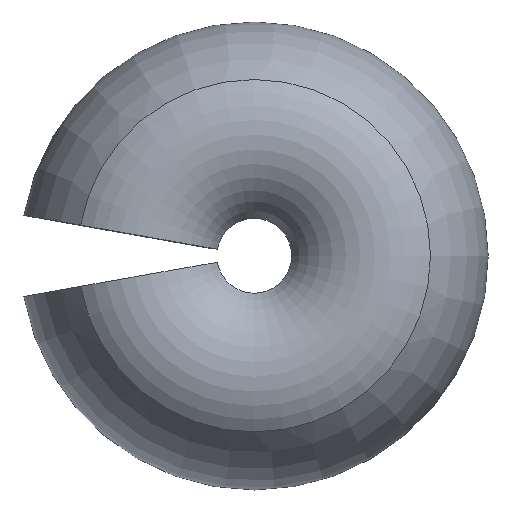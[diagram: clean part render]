
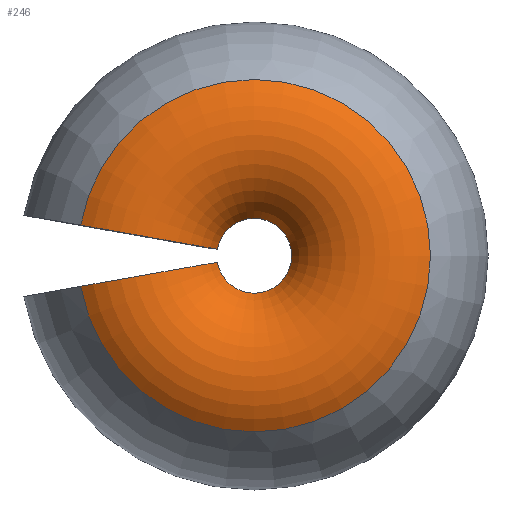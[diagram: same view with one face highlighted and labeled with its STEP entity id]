
A CAD part, top view. The second image highlights one B-rep face of the part: STEP entity #246.
In plain terms, the highlighted toroidal (fillet/blend) face has major radius 1705.64 mm and minor radius 1295 mm.
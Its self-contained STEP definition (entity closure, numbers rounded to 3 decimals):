
#7 = ORIENTED_EDGE ( 'NONE', *, *, #131, .F. ) ;
#14 = EDGE_CURVE ( 'NONE', #115, #139, #83, .T. ) ;
#19 = CARTESIAN_POINT ( 'NONE',  ( -1679.729, -296.182, 1972.718 ) ) ;
#24 = CARTESIAN_POINT ( 'NONE',  ( 0., 0., 1972.718 ) ) ;
#34 = CIRCLE ( 'NONE', #192, 1295. ) ;
#36 = ORIENTED_EDGE ( 'NONE', *, *, #151, .T. ) ;
#48 = TOROIDAL_SURFACE ( 'NONE', #219, 1705.642, 1295. ) ;
#77 = DIRECTION ( 'NONE',  ( 0.174, 0.985, 0. ) ) ;
#83 = CIRCLE ( 'NONE', #223, 531.973 ) ;
#111 = DIRECTION ( 'NONE',  ( 0., 0., -1. ) ) ;
#115 = VERTEX_POINT ( 'NONE', #140 ) ;
#123 = DIRECTION ( 'NONE',  ( 0., 0., -1. ) ) ;
#131 = EDGE_CURVE ( 'NONE', #158, #239, #161, .T. ) ;
#137 = CIRCLE ( 'NONE', #149, 1295. ) ;
#139 = VERTEX_POINT ( 'NONE', #181 ) ;
#140 = CARTESIAN_POINT ( 'NONE',  ( -523.892, 92.376, 2520.008 ) ) ;
#141 = CARTESIAN_POINT ( 'NONE',  ( 0., 0., 2993.192 ) ) ;
#142 = DIRECTION ( 'NONE',  ( 0., 0., 1. ) ) ;
#144 = CARTESIAN_POINT ( 'NONE',  ( 0., 0., 2520.008 ) ) ;
#149 = AXIS2_PLACEMENT_3D ( 'NONE', #265, #77, #163 ) ;
#151 = EDGE_CURVE ( 'NONE', #158, #115, #137, .T. ) ;
#158 = VERTEX_POINT ( 'NONE', #160 ) ;
#160 = CARTESIAN_POINT ( 'NONE',  ( -2464.899, 434.628, 2993.192 ) ) ;
#161 = CIRCLE ( 'NONE', #187, 2502.924 ) ;
#163 = DIRECTION ( 'NONE',  ( 0., 0., 1. ) ) ;
#164 = EDGE_CURVE ( 'NONE', #239, #139, #34, .T. ) ;
#173 = EDGE_LOOP ( 'NONE', ( #241, #198, #7, #36 ) ) ;
#181 = CARTESIAN_POINT ( 'NONE',  ( -523.892, -92.376, 2520.008 ) ) ;
#187 = AXIS2_PLACEMENT_3D ( 'NONE', #141, #123, #205 ) ;
#192 = AXIS2_PLACEMENT_3D ( 'NONE', #19, #244, #142 ) ;
#198 = ORIENTED_EDGE ( 'NONE', *, *, #164, .F. ) ;
#205 = DIRECTION ( 'NONE',  ( -1., 0., 0. ) ) ;
#210 = DIRECTION ( 'NONE',  ( -1., 0., 0. ) ) ;
#219 = AXIS2_PLACEMENT_3D ( 'NONE', #24, #111, #210 ) ;
#223 = AXIS2_PLACEMENT_3D ( 'NONE', #144, #264, #225 ) ;
#225 = DIRECTION ( 'NONE',  ( -1., 0., 0. ) ) ;
#234 = CARTESIAN_POINT ( 'NONE',  ( -2464.899, -434.628, 2993.192 ) ) ;
#239 = VERTEX_POINT ( 'NONE', #234 ) ;
#241 = ORIENTED_EDGE ( 'NONE', *, *, #14, .T. ) ;
#244 = DIRECTION ( 'NONE',  ( -0.174, 0.985, 0. ) ) ;
#246 = ADVANCED_FACE ( 'NONE', ( #250 ), #48, .T. ) ;
#250 = FACE_OUTER_BOUND ( 'NONE', #173, .T. ) ;
#264 = DIRECTION ( 'NONE',  ( 0., 0., -1. ) ) ;
#265 = CARTESIAN_POINT ( 'NONE',  ( -1679.729, 296.182, 1972.718 ) ) ;
